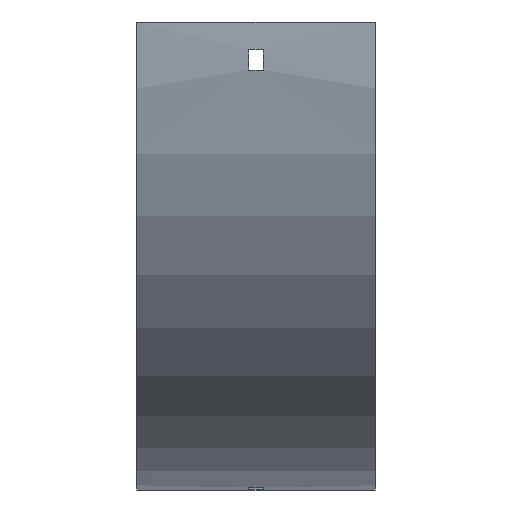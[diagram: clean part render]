
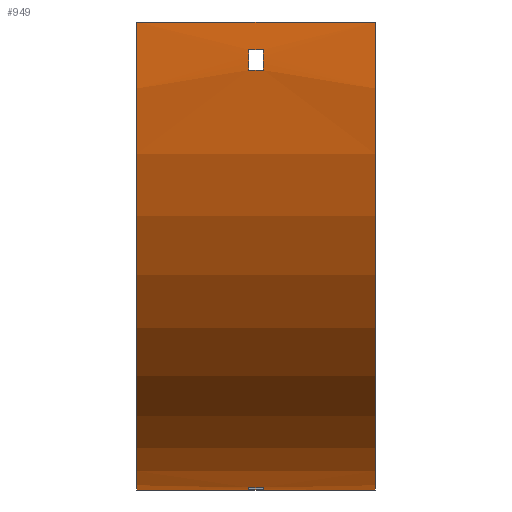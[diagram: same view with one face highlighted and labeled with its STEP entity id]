
A CAD part, front view. The second image highlights one B-rep face of the part: STEP entity #949.
In plain terms, the highlighted cylindrical face has radius 204 mm (diameter 408 mm), a partial arc.
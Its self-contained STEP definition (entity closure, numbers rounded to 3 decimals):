
#2 = CARTESIAN_POINT ( 'NONE',  ( 52., 79., -202.916 ) ) ;
#6 = EDGE_CURVE ( 'NONE', #1239, #1209, #39, .T. ) ;
#25 = DIRECTION ( 'NONE',  ( -1., 0., 0. ) ) ;
#29 = EDGE_CURVE ( 'NONE', #1156, #147, #1039, .T. ) ;
#32 = EDGE_CURVE ( 'NONE', #1239, #50, #567, .T. ) ;
#39 = LINE ( 'NONE', #389, #60 ) ;
#45 = AXIS2_PLACEMENT_3D ( 'NONE', #1553, #887, #407 ) ;
#50 = VERTEX_POINT ( 'NONE', #532 ) ;
#60 = VECTOR ( 'NONE', #264, 1000. ) ;
#77 = CARTESIAN_POINT ( 'NONE',  ( 3.25, 100., 0. ) ) ;
#80 = ORIENTED_EDGE ( 'NONE', *, *, #29, .F. ) ;
#94 = ORIENTED_EDGE ( 'NONE', *, *, #1059, .F. ) ;
#109 = CARTESIAN_POINT ( 'NONE',  ( -52., -104., 0. ) ) ;
#116 = CARTESIAN_POINT ( 'NONE',  ( 52., -103.647, -12. ) ) ;
#120 = VERTEX_POINT ( 'NONE', #1272 ) ;
#123 = EDGE_CURVE ( 'NONE', #120, #1215, #1407, .T. ) ;
#147 = VERTEX_POINT ( 'NONE', #1002 ) ;
#264 = DIRECTION ( 'NONE',  ( -1., 0., 0. ) ) ;
#283 = DIRECTION ( 'NONE',  ( 0., 0., -1. ) ) ;
#315 = ORIENTED_EDGE ( 'NONE', *, *, #1543, .T. ) ;
#319 = LINE ( 'NONE', #571, #645 ) ;
#331 = FACE_BOUND ( 'NONE', #1448, .T. ) ;
#332 = DIRECTION ( 'NONE',  ( 1., 0., 0. ) ) ;
#360 = EDGE_LOOP ( 'NONE', ( #563, #909, #1673, #1478 ) ) ;
#364 = CARTESIAN_POINT ( 'NONE',  ( 3.25, 79., -202.916 ) ) ;
#374 = VECTOR ( 'NONE', #1032, 1000. ) ;
#389 = CARTESIAN_POINT ( 'NONE',  ( 52., -104., 0. ) ) ;
#399 = DIRECTION ( 'NONE',  ( 1., 0., 0. ) ) ;
#407 = DIRECTION ( 'NONE',  ( 0., 0., 1. ) ) ;
#421 = CIRCLE ( 'NONE', #45, 204. ) ;
#431 = VERTEX_POINT ( 'NONE', #526 ) ;
#435 = CARTESIAN_POINT ( 'NONE',  ( -3.25, 88., -203.647 ) ) ;
#452 = FACE_OUTER_BOUND ( 'NONE', #360, .T. ) ;
#457 = CIRCLE ( 'NONE', #1329, 204. ) ;
#477 = CARTESIAN_POINT ( 'NONE',  ( 3.25, -102.916, -21. ) ) ;
#496 = DIRECTION ( 'NONE',  ( 0., 0., -1. ) ) ;
#526 = CARTESIAN_POINT ( 'NONE',  ( 3.25, 88., -203.647 ) ) ;
#532 = CARTESIAN_POINT ( 'NONE',  ( 52., 100., -204. ) ) ;
#563 = ORIENTED_EDGE ( 'NONE', *, *, #1049, .T. ) ;
#567 = CIRCLE ( 'NONE', #1333, 204. ) ;
#571 = CARTESIAN_POINT ( 'NONE',  ( 52., 88., -203.647 ) ) ;
#584 = CARTESIAN_POINT ( 'NONE',  ( -52., 100., -204. ) ) ;
#645 = VECTOR ( 'NONE', #850, 1000. ) ;
#647 = AXIS2_PLACEMENT_3D ( 'NONE', #1094, #807, #948 ) ;
#676 = CIRCLE ( 'NONE', #966, 204. ) ;
#679 = VERTEX_POINT ( 'NONE', #435 ) ;
#681 = VECTOR ( 'NONE', #979, 1000. ) ;
#689 = VERTEX_POINT ( 'NONE', #477 ) ;
#710 = LINE ( 'NONE', #1352, #808 ) ;
#720 = CARTESIAN_POINT ( 'NONE',  ( 52., 100., 0. ) ) ;
#722 = DIRECTION ( 'NONE',  ( 0., 0., -1. ) ) ;
#734 = EDGE_CURVE ( 'NONE', #1430, #120, #676, .T. ) ;
#742 = DIRECTION ( 'NONE',  ( -1., 0., 0. ) ) ;
#807 = DIRECTION ( 'NONE',  ( 1., 0., 0. ) ) ;
#808 = VECTOR ( 'NONE', #820, 1000. ) ;
#820 = DIRECTION ( 'NONE',  ( -1., 0., 0. ) ) ;
#832 = ORIENTED_EDGE ( 'NONE', *, *, #734, .T. ) ;
#849 = CYLINDRICAL_SURFACE ( 'NONE', #861, 204. ) ;
#850 = DIRECTION ( 'NONE',  ( 1., 0., 0. ) ) ;
#861 = AXIS2_PLACEMENT_3D ( 'NONE', #720, #890, #1283 ) ;
#880 = DIRECTION ( 'NONE',  ( 1., 0., 0. ) ) ;
#887 = DIRECTION ( 'NONE',  ( -1., 0., 0. ) ) ;
#890 = DIRECTION ( 'NONE',  ( -1., 0., 0. ) ) ;
#905 = CIRCLE ( 'NONE', #1350, 204. ) ;
#909 = ORIENTED_EDGE ( 'NONE', *, *, #1624, .F. ) ;
#922 = CARTESIAN_POINT ( 'NONE',  ( 52., -104., 0. ) ) ;
#937 = VERTEX_POINT ( 'NONE', #584 ) ;
#948 = DIRECTION ( 'NONE',  ( 0., 1., 0. ) ) ;
#949 = ADVANCED_FACE ( 'NONE', ( #452, #1508, #331 ), #849, .T. ) ;
#965 = CARTESIAN_POINT ( 'NONE',  ( -52., 100., 0. ) ) ;
#966 = AXIS2_PLACEMENT_3D ( 'NONE', #1388, #742, #1258 ) ;
#979 = DIRECTION ( 'NONE',  ( 1., 0., 0. ) ) ;
#984 = VECTOR ( 'NONE', #25, 1000. ) ;
#1002 = CARTESIAN_POINT ( 'NONE',  ( -3.25, 79., -202.916 ) ) ;
#1011 = EDGE_CURVE ( 'NONE', #689, #1430, #710, .T. ) ;
#1016 = CARTESIAN_POINT ( 'NONE',  ( 52., 100., -204. ) ) ;
#1032 = DIRECTION ( 'NONE',  ( -1., 0., 0. ) ) ;
#1039 = LINE ( 'NONE', #2, #374 ) ;
#1049 = EDGE_CURVE ( 'NONE', #1209, #937, #457, .T. ) ;
#1059 = EDGE_CURVE ( 'NONE', #679, #431, #319, .T. ) ;
#1067 = ORIENTED_EDGE ( 'NONE', *, *, #1011, .T. ) ;
#1094 = CARTESIAN_POINT ( 'NONE',  ( -3.25, 100., 0. ) ) ;
#1156 = VERTEX_POINT ( 'NONE', #364 ) ;
#1161 = LINE ( 'NONE', #1016, #984 ) ;
#1209 = VERTEX_POINT ( 'NONE', #109 ) ;
#1215 = VERTEX_POINT ( 'NONE', #1642 ) ;
#1230 = CARTESIAN_POINT ( 'NONE',  ( -3.25, -102.916, -21. ) ) ;
#1239 = VERTEX_POINT ( 'NONE', #922 ) ;
#1245 = ORIENTED_EDGE ( 'NONE', *, *, #123, .T. ) ;
#1258 = DIRECTION ( 'NONE',  ( 0., 0., 1. ) ) ;
#1260 = ORIENTED_EDGE ( 'NONE', *, *, #1393, .F. ) ;
#1272 = CARTESIAN_POINT ( 'NONE',  ( -3.25, -103.647, -12. ) ) ;
#1283 = DIRECTION ( 'NONE',  ( 0., 0., 1. ) ) ;
#1329 = AXIS2_PLACEMENT_3D ( 'NONE', #965, #332, #722 ) ;
#1333 = AXIS2_PLACEMENT_3D ( 'NONE', #1576, #399, #283 ) ;
#1350 = AXIS2_PLACEMENT_3D ( 'NONE', #77, #880, #496 ) ;
#1352 = CARTESIAN_POINT ( 'NONE',  ( 52., -102.916, -21. ) ) ;
#1387 = CIRCLE ( 'NONE', #647, 204. ) ;
#1388 = CARTESIAN_POINT ( 'NONE',  ( -3.25, 100., 0. ) ) ;
#1393 = EDGE_CURVE ( 'NONE', #147, #679, #1387, .T. ) ;
#1407 = LINE ( 'NONE', #116, #681 ) ;
#1425 = ORIENTED_EDGE ( 'NONE', *, *, #1669, .F. ) ;
#1430 = VERTEX_POINT ( 'NONE', #1230 ) ;
#1448 = EDGE_LOOP ( 'NONE', ( #1260, #80, #1425, #94 ) ) ;
#1478 = ORIENTED_EDGE ( 'NONE', *, *, #6, .T. ) ;
#1492 = EDGE_LOOP ( 'NONE', ( #1067, #832, #1245, #315 ) ) ;
#1508 = FACE_BOUND ( 'NONE', #1492, .T. ) ;
#1543 = EDGE_CURVE ( 'NONE', #1215, #689, #905, .T. ) ;
#1553 = CARTESIAN_POINT ( 'NONE',  ( 3.25, 100., 0. ) ) ;
#1576 = CARTESIAN_POINT ( 'NONE',  ( 52., 100., 0. ) ) ;
#1624 = EDGE_CURVE ( 'NONE', #50, #937, #1161, .T. ) ;
#1642 = CARTESIAN_POINT ( 'NONE',  ( 3.25, -103.647, -12. ) ) ;
#1669 = EDGE_CURVE ( 'NONE', #431, #1156, #421, .T. ) ;
#1673 = ORIENTED_EDGE ( 'NONE', *, *, #32, .F. ) ;
